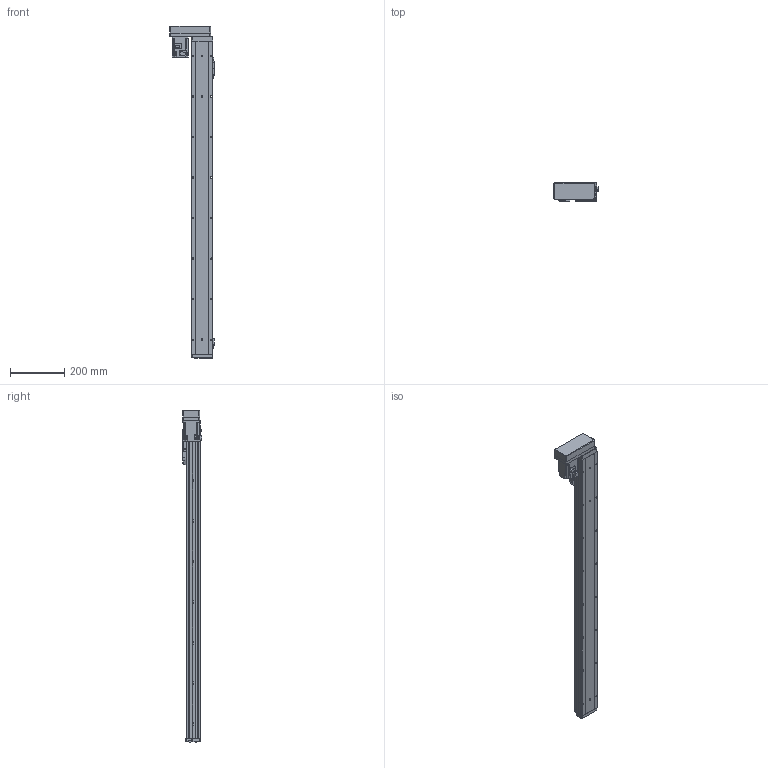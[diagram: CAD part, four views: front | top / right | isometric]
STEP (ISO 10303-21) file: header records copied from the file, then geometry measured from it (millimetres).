
FILE_DESCRIPTION (( 'STEP AP214' ), '1' );
FILE_NAME ('GSH8-1000-BR-M20-1.step', '2025-01-07T06:09:42', ( '' ), ( '' ), 'SwSTEP 2.0', 'SolidWorks 2012', '' );
FILE_SCHEMA (( 'AUTOMOTIVE_DESIGN' ));
Length unit declared in the file: millimetre
Products named in the file (5): GSH8-GY-004; GSH8-1000-BR-M20-1; HG-KR23_200W_Motor; GSH8-BL-011-1000-M20; GSH8-BL-008
Assembly tree (4 placements, depth 2):
  GSH8-1000-BR-M20-1
    GSH8-BL-011-1000-M20
    GSH8-GY-004
    GSH8-BL-008
    HG-KR23_200W_Motor
Bounding box: 163 x 71.3 x 1228.2 mm (x, y, z)
Volume: 2695002 mm3; surface area: 707908.1 mm2
Topology: 4 solids, 8 shells, 1157 faces, 3047 edges, 1963 vertices
Faces by surface type: plane 648, cylinder 413, torus 42, cone 26, bspline 24, sphere 4
Entity records: 45107 total; most frequent: CARTESIAN_POINT 10116, DIRECTION 6191, ORIENTED_EDGE 6078, EDGE_CURVE 3039, AXIS2_PLACEMENT_3D 2090, VECTOR 2011, LINE 2011, VERTEX_POINT 1959
